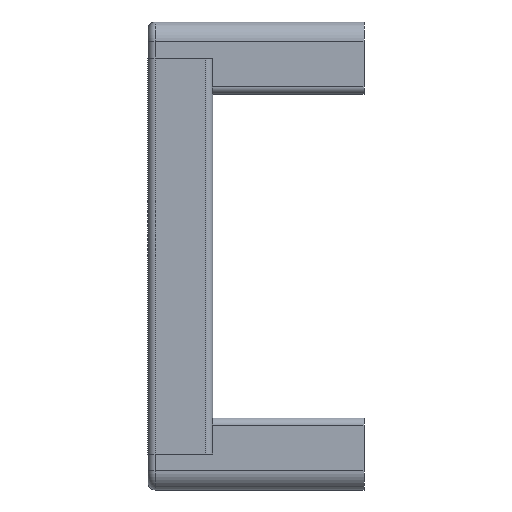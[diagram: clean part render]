
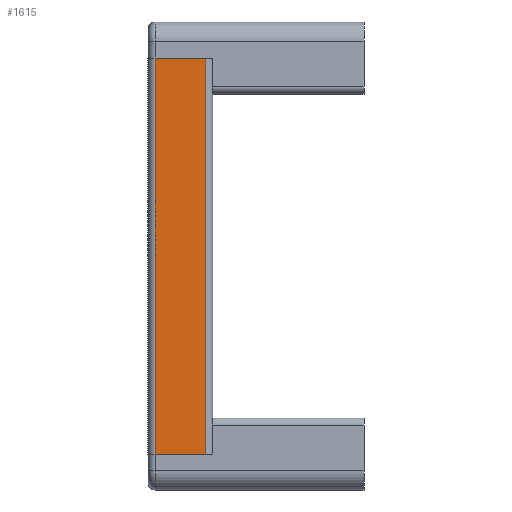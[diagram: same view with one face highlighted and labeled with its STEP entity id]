
A CAD part, left-side view. The second image highlights one B-rep face of the part: STEP entity #1615.
In plain terms, the highlighted planar face has unit normal (-1, 0, 0).
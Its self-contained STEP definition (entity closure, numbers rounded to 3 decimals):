
#32 = CARTESIAN_POINT ( 'NONE',  ( -4., 3.5, 27.5 ) ) ;
#80 = PLANE ( 'NONE',  #1079 ) ;
#159 = LINE ( 'NONE', #981, #709 ) ;
#178 = CARTESIAN_POINT ( 'NONE',  ( -4., 3.5, 27.5 ) ) ;
#327 = VERTEX_POINT ( 'NONE', #1318 ) ;
#382 = VECTOR ( 'NONE', #2036, 1000. ) ;
#425 = DIRECTION ( 'NONE',  ( 0., 0., -1. ) ) ;
#475 = EDGE_CURVE ( 'NONE', #551, #327, #1320, .T. ) ;
#551 = VERTEX_POINT ( 'NONE', #32 ) ;
#565 = DIRECTION ( 'NONE',  ( 1., 0., 0. ) ) ;
#648 = EDGE_CURVE ( 'NONE', #1835, #750, #1769, .T. ) ;
#661 = EDGE_CURVE ( 'NONE', #327, #750, #1178, .T. ) ;
#709 = VECTOR ( 'NONE', #1308, 1000. ) ;
#740 = CARTESIAN_POINT ( 'NONE',  ( -4., -3.5, -27.5 ) ) ;
#750 = VERTEX_POINT ( 'NONE', #740 ) ;
#892 = CARTESIAN_POINT ( 'NONE',  ( -4., 3.5, 27.5 ) ) ;
#981 = CARTESIAN_POINT ( 'NONE',  ( -4., 3.5, 27.5 ) ) ;
#1008 = EDGE_LOOP ( 'NONE', ( #1075, #1905, #1825, #1697 ) ) ;
#1018 = DIRECTION ( 'NONE',  ( 0., -1., 0. ) ) ;
#1075 = ORIENTED_EDGE ( 'NONE', *, *, #648, .T. ) ;
#1079 = AXIS2_PLACEMENT_3D ( 'NONE', #892, #565, #425 ) ;
#1178 = LINE ( 'NONE', #2098, #1696 ) ;
#1308 = DIRECTION ( 'NONE',  ( 0., 0., -1. ) ) ;
#1318 = CARTESIAN_POINT ( 'NONE',  ( -4., -3.5, 27.5 ) ) ;
#1320 = LINE ( 'NONE', #178, #382 ) ;
#1434 = FACE_OUTER_BOUND ( 'NONE', #1008, .T. ) ;
#1615 = ADVANCED_FACE ( 'NONE', ( #1434 ), #80, .F. ) ;
#1696 = VECTOR ( 'NONE', #1911, 1000. ) ;
#1697 = ORIENTED_EDGE ( 'NONE', *, *, #1915, .T. ) ;
#1769 = LINE ( 'NONE', #1895, #1823 ) ;
#1776 = CARTESIAN_POINT ( 'NONE',  ( -4., 3.5, -27.5 ) ) ;
#1823 = VECTOR ( 'NONE', #1018, 1000. ) ;
#1825 = ORIENTED_EDGE ( 'NONE', *, *, #475, .F. ) ;
#1835 = VERTEX_POINT ( 'NONE', #1776 ) ;
#1895 = CARTESIAN_POINT ( 'NONE',  ( -4., 3.5, -27.5 ) ) ;
#1905 = ORIENTED_EDGE ( 'NONE', *, *, #661, .F. ) ;
#1911 = DIRECTION ( 'NONE',  ( 0., 0., -1. ) ) ;
#1915 = EDGE_CURVE ( 'NONE', #551, #1835, #159, .T. ) ;
#2036 = DIRECTION ( 'NONE',  ( 0., -1., 0. ) ) ;
#2098 = CARTESIAN_POINT ( 'NONE',  ( -4., -3.5, 27.5 ) ) ;
